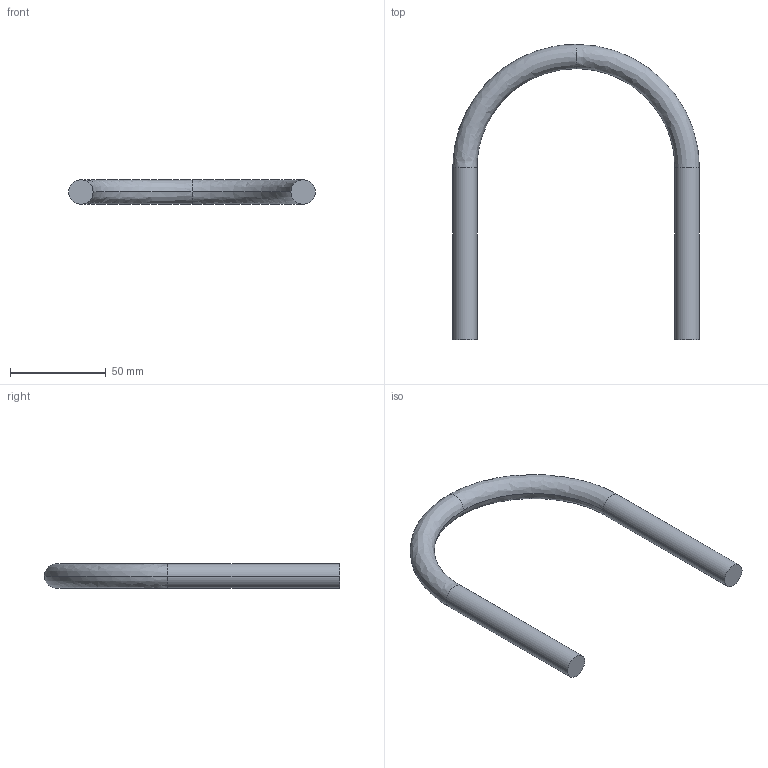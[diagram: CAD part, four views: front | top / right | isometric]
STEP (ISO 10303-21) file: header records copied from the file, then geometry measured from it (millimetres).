
FILE_DESCRIPTION(('TurboCAD Mac Pro'),'Build 980');
FILE_NAME('FUB-350.stp',' ',(''),(''),'ACIS Interop','IMSI','TurboCAD Mac Pro BY IMSI, INCORPORATED');
FILE_SCHEMA(('automotive_design'));
Length unit declared in the file: inch
Products named in the file (2): 1; 2
Bounding box: 128.58 x 153.97 x 12.7 mm (x, y, z)
Volume: 45744.9 mm3; surface area: 14667.8 mm2
Topology: 1 solids, 1 shells, 10 faces, 18 edges, 10 vertices
Faces by surface type: bspline 4, cylinder 4, plane 2
Entity records: 676 total; most frequent: CARTESIAN_POINT 330, DIRECTION 42, ORIENTED_EDGE 36, AXIS2_PLACEMENT_3D 18, EDGE_CURVE 18, STYLED_ITEM 15, PRESENTATION_STYLE_ASSIGNMENT 15, COLOUR_RGB 15
